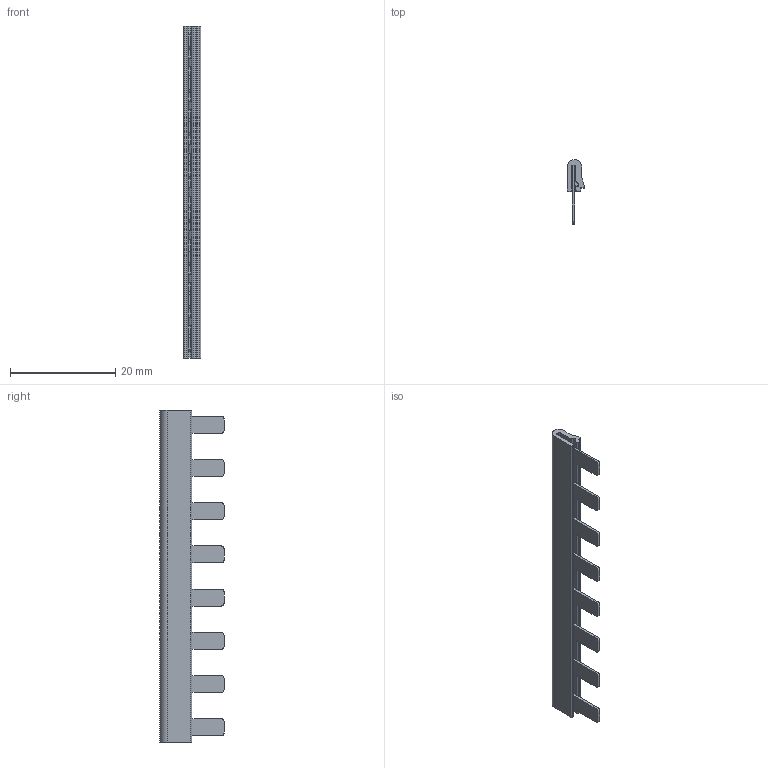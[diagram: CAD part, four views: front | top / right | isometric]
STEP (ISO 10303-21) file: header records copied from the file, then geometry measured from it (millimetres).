
FILE_DESCRIPTION(/* description */ (''),/* implementation_level */ '2;1');
FILE_NAME(/* name */ 'C:\Users\maryon.bubeck\Desktop\transfer\L71-154-8077Y_00 KV.stp',/* time_stamp */ '2015-06-25T15:57:33+02:00',/* author */ ('maryon.bubeck'),/* organization */ (''),/* preprocessor_version */ 'ST-DEVELOPER v15.2',/* originating_system */ 'Autodesk Inventor 2014',/* authorisation */ '');
FILE_SCHEMA (('AUTOMOTIVE_DESIGN { 1 0 10303 214 3 1 1 }'));
Length unit declared in the file: millimetre
Products named in the file (1): L71-154-8077Y_00 KV
Bounding box: 3.29 x 12.15 x 63 mm (x, y, z)
Volume: 918.6 mm3; surface area: 2638.7 mm2
Topology: 2 solids, 2 shells, 127 faces, 355 edges, 232 vertices
Faces by surface type: plane 92, cylinder 35
Entity records: 4070 total; most frequent: CARTESIAN_POINT 715, ORIENTED_EDGE 710, DIRECTION 681, EDGE_CURVE 355, LINE 285, VECTOR 285, VERTEX_POINT 232, AXIS2_PLACEMENT_3D 198
